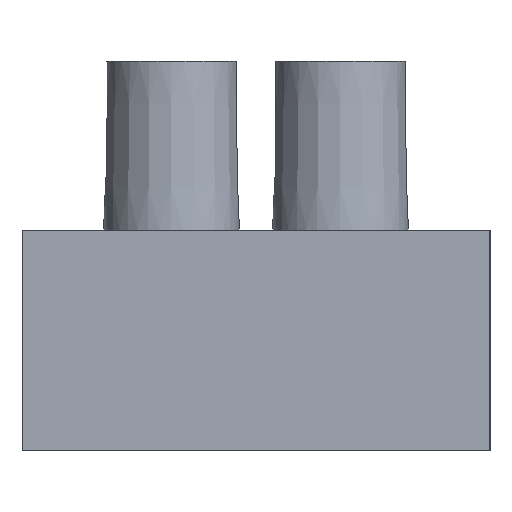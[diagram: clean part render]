
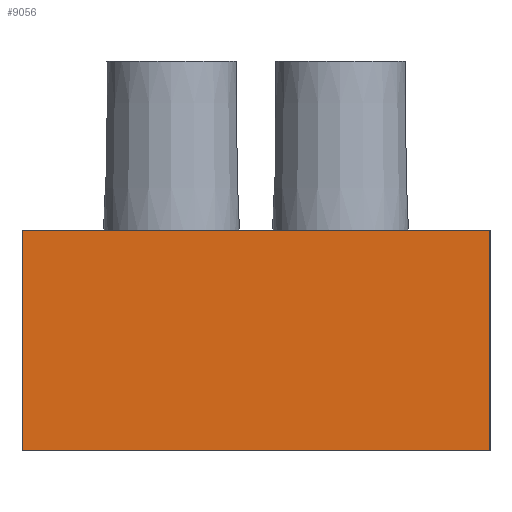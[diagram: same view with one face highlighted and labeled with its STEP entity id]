
A CAD part, left-side view. The second image highlights one B-rep face of the part: STEP entity #9056.
In plain terms, the highlighted planar face has unit normal (-1, 0, 0).
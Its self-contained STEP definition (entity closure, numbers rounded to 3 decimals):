
#44=LINE('',#13163,#984);
#128=LINE('',#13367,#1068);
#174=LINE('',#13512,#1114);
#446=LINE('',#14113,#1386);
#984=VECTOR('',#10481,1000.);
#1068=VECTOR('',#10613,1000.);
#1114=VECTOR('',#10715,1000.);
#1386=VECTOR('',#11191,1000.);
#2006=PLANE('',#9719);
#3023=ORIENTED_EDGE('',*,*,#5013,.T.);
#3024=ORIENTED_EDGE('',*,*,#5085,.F.);
#3025=ORIENTED_EDGE('',*,*,#4917,.F.);
#3026=ORIENTED_EDGE('',*,*,#5387,.T.);
#4917=EDGE_CURVE('',#6176,#6177,#44,.T.);
#5013=EDGE_CURVE('',#6272,#6273,#128,.T.);
#5085=EDGE_CURVE('',#6177,#6273,#174,.T.);
#5387=EDGE_CURVE('',#6176,#6272,#446,.T.);
#6176=VERTEX_POINT('',#13164);
#6177=VERTEX_POINT('',#13165);
#6272=VERTEX_POINT('',#13368);
#6273=VERTEX_POINT('',#13369);
#7523=EDGE_LOOP('',(#3023,#3024,#3025,#3026));
#8283=FACE_BOUND('',#7523,.T.);
#9056=ADVANCED_FACE('',(#8283),#2006,.F.);
#9719=AXIS2_PLACEMENT_3D('',#14122,#11196,#11197);
#10481=DIRECTION('',(0.,0.,1.));
#10613=DIRECTION('',(0.,0.,1.));
#10715=DIRECTION('',(0.,-1.,0.));
#11191=DIRECTION('',(0.,-1.,0.));
#11196=DIRECTION('',(1.,0.,0.));
#11197=DIRECTION('',(0.,0.,-1.));
#13163=CARTESIAN_POINT('',(-3.,17.,-4.25));
#13164=CARTESIAN_POINT('',(-3.,17.,-4.25));
#13165=CARTESIAN_POINT('',(-3.,17.,4.25));
#13367=CARTESIAN_POINT('',(-3.,-1.,-4.25));
#13368=CARTESIAN_POINT('',(-3.,-1.,-4.25));
#13369=CARTESIAN_POINT('',(-3.,-1.,4.25));
#13512=CARTESIAN_POINT('',(-3.,16.,4.25));
#14113=CARTESIAN_POINT('',(-3.,16.,-4.25));
#14122=CARTESIAN_POINT('',(-3.,16.,-4.25));
